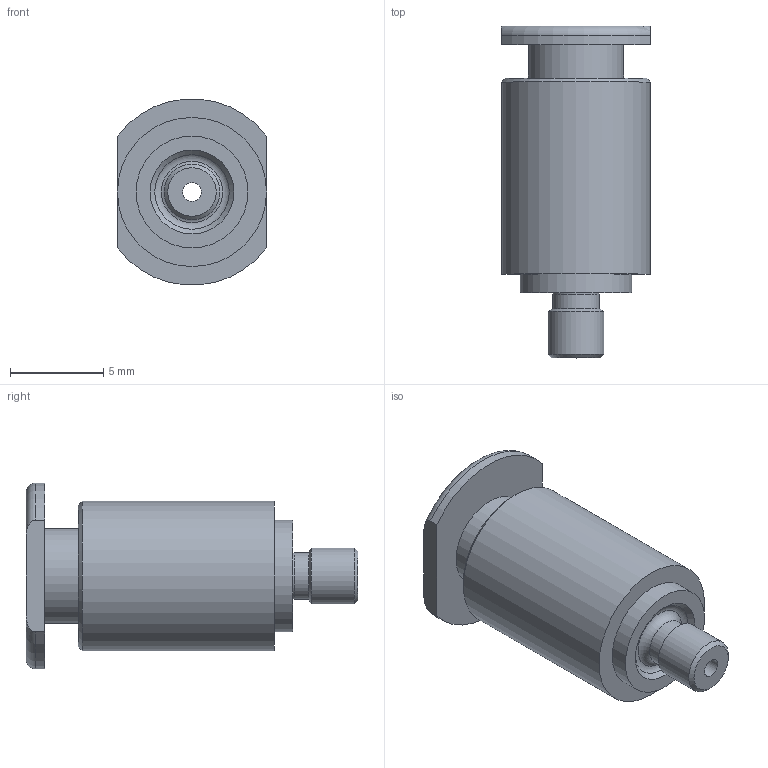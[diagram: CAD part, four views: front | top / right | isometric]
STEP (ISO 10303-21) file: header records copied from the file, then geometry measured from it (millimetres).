
FILE_DESCRIPTION(/* description */ (''),/* implementation_level */ '2;1');
FILE_NAME(/* name */ 'S:\_Tecnico\ArchivioUT\_Disegni3D ingombri\DISEGNI 3D per ingombri\RP\RP 51T-C\RP51TM304C.stp',/* time_stamp */ '2020-02-05T15:05:05+01:00',/* author */ ('UfficioTecnico'),/* organization */ (''),/* preprocessor_version */ 'ST-DEVELOPER v18',/* originating_system */ 'Autodesk Inventor 2020',/* authorisation */ '');
FILE_SCHEMA (('AUTOMOTIVE_DESIGN { 1 0 10303 214 3 1 1 }'));
Length unit declared in the file: millimetre
Products named in the file (1): RP51TM304C
Bounding box: 8 x 17.8 x 9.96 mm (x, y, z)
Volume: 561.5 mm3; surface area: 864.3 mm2
Topology: 2 solids, 2 shells, 29 faces, 76 edges, 54 vertices
Faces by surface type: cylinder 10, plane 9, cone 6, torus 4
Full cylindrical faces by diameter (mm): 1 x1, 2.5 x1, 3 x1, 4 x1, 5.1 x1, 5.2 x1, 6 x1, 8 x1
Entity records: 1016 total; most frequent: CARTESIAN_POINT 196, DIRECTION 182, ORIENTED_EDGE 152, AXIS2_PLACEMENT_3D 80, EDGE_CURVE 76, VERTEX_POINT 54, CIRCLE 50, EDGE_LOOP 36
